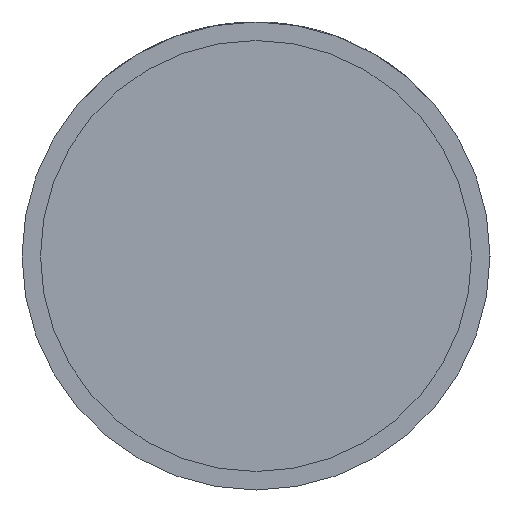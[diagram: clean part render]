
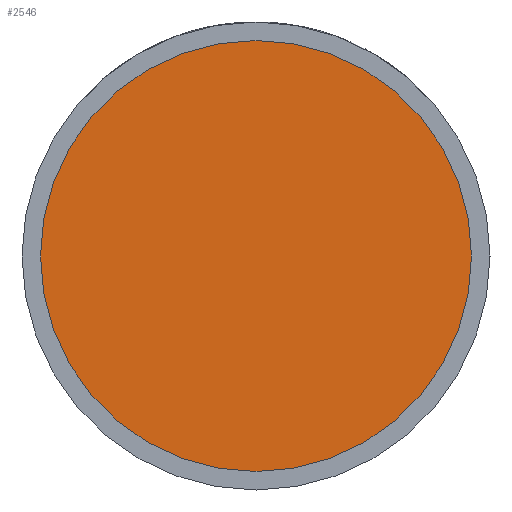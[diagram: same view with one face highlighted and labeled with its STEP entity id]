
A CAD part, front view. The second image highlights one B-rep face of the part: STEP entity #2546.
In plain terms, the highlighted planar face has unit normal (0, -1, 0).
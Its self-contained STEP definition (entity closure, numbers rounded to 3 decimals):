
#96 = DIRECTION ( 'NONE',  ( 1., 0., 0. ) ) ;
#195 = EDGE_CURVE ( 'NONE', #4201, #3042, #2112, .T. ) ;
#240 = DIRECTION ( 'NONE',  ( 0., -1., 0. ) ) ;
#436 = DIRECTION ( 'NONE',  ( 0., -1., 0. ) ) ;
#952 = DIRECTION ( 'NONE',  ( 1., 0., 0. ) ) ;
#1228 = CARTESIAN_POINT ( 'NONE',  ( 0., -17., 0. ) ) ;
#1329 = CARTESIAN_POINT ( 'NONE',  ( -17.5, -17., 0. ) ) ;
#1433 = CIRCLE ( 'NONE', #3485, 17.5 ) ;
#1434 = ORIENTED_EDGE ( 'NONE', *, *, #2408, .T. ) ;
#1824 = AXIS2_PLACEMENT_3D ( 'NONE', #1228, #240, #3567 ) ;
#2112 = CIRCLE ( 'NONE', #1824, 17.5 ) ;
#2155 = CARTESIAN_POINT ( 'NONE',  ( 17.5, -17., 0. ) ) ;
#2272 = DIRECTION ( 'NONE',  ( 0., -1., 0. ) ) ;
#2408 = EDGE_CURVE ( 'NONE', #3042, #4201, #1433, .T. ) ;
#2546 = ADVANCED_FACE ( 'NONE', ( #2583 ), #3877, .T. ) ;
#2583 = FACE_OUTER_BOUND ( 'NONE', #2672, .T. ) ;
#2672 = EDGE_LOOP ( 'NONE', ( #3760, #1434 ) ) ;
#2950 = AXIS2_PLACEMENT_3D ( 'NONE', #2155, #2272, #952 ) ;
#3042 = VERTEX_POINT ( 'NONE', #1329 ) ;
#3374 = CARTESIAN_POINT ( 'NONE',  ( 0., -17., 0. ) ) ;
#3485 = AXIS2_PLACEMENT_3D ( 'NONE', #3374, #436, #96 ) ;
#3567 = DIRECTION ( 'NONE',  ( 1., 0., 0. ) ) ;
#3576 = CARTESIAN_POINT ( 'NONE',  ( 17.5, -17., 0. ) ) ;
#3760 = ORIENTED_EDGE ( 'NONE', *, *, #195, .T. ) ;
#3877 = PLANE ( 'NONE',  #2950 ) ;
#4201 = VERTEX_POINT ( 'NONE', #3576 ) ;
